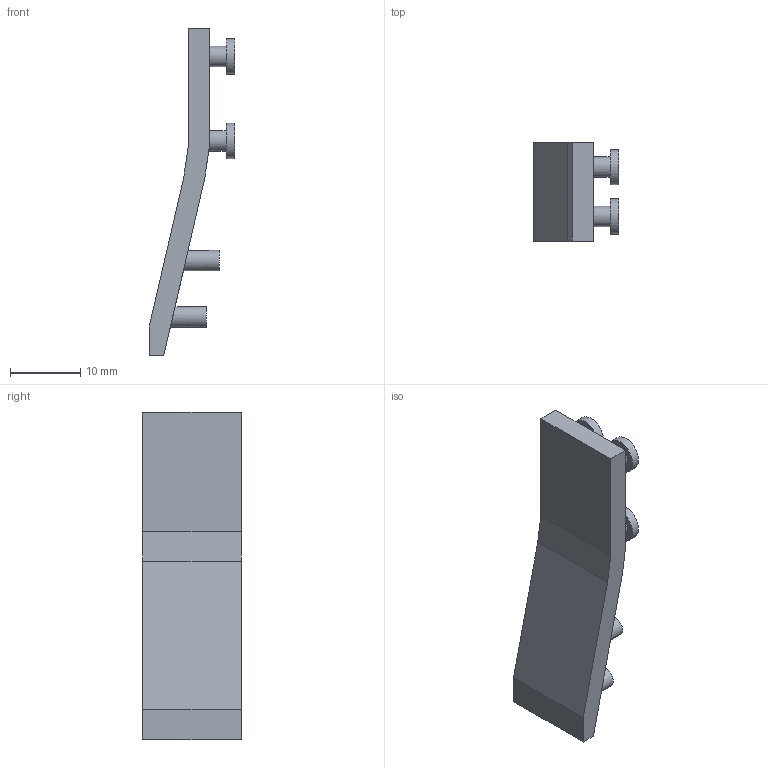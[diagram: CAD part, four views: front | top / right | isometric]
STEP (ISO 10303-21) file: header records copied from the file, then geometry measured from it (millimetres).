
FILE_DESCRIPTION(('Open CASCADE Model'),'2;1');
FILE_NAME('Open CASCADE Shape Model','2026-10-17T22:15:36',('Author'),( 'Open CASCADE'),'Open CASCADE STEP processor 7.9','Open CASCADE 7.9' ,'Unknown');
FILE_SCHEMA(('AUTOMOTIVE_DESIGN { 1 0 10303 214 1 1 1 1 }'));
Length unit declared in the file: millimetre
Products named in the file (1): Open CASCADE STEP translator 7.9 25
Bounding box: 12.09 x 14 x 46.5 mm (x, y, z)
Volume: 2207.9 mm3; surface area: 2106.7 mm2
Topology: 1 solids, 1 shells, 35 faces, 69 edges, 46 vertices
Faces by surface type: plane 23, cylinder 12
Full cylindrical faces by diameter (mm): 2.9 x8, 5 x4
Entity records: 1894 total; most frequent: CARTESIAN_POINT 389, DIRECTION 297, LINE 145, VECTOR 145, ORIENTED_EDGE 138, PCURVE 138, DEFINITIONAL_REPRESENTATION 138, EDGE_CURVE 69
